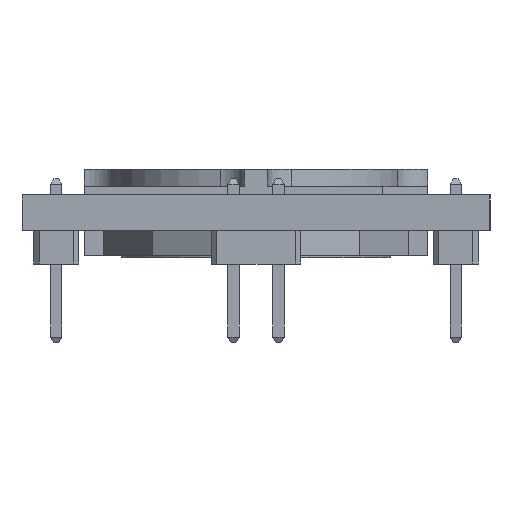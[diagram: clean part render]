
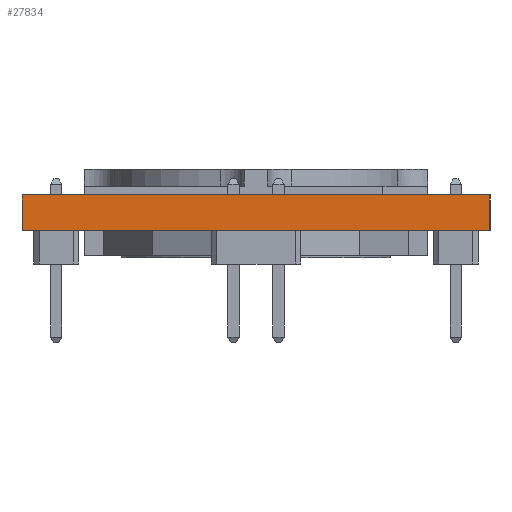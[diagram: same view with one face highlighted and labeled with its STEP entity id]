
A CAD part, left-side view. The second image highlights one B-rep face of the part: STEP entity #27834.
In plain terms, the highlighted planar face has unit normal (-1, 0, 0) as drawn and (0, -1, 0) by its records, which use the part's own axes.
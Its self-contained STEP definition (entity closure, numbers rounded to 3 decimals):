
#822 = VERTEX_POINT ( 'NONE', #15150 ) ;
#2133 = LINE ( 'NONE', #15295, #18014 ) ;
#6997 = VERTEX_POINT ( 'NONE', #30573 ) ;
#8239 = CARTESIAN_POINT ( 'NONE',  ( 46.222, 25.4, 0. ) ) ;
#8980 = VECTOR ( 'NONE', #18170, 1000. ) ;
#10000 = CARTESIAN_POINT ( 'NONE',  ( 0., 25.4, -1.575 ) ) ;
#10211 = CARTESIAN_POINT ( 'NONE',  ( 25.406, 25.4, 0. ) ) ;
#11106 = LINE ( 'NONE', #26862, #22978 ) ;
#13884 = ORIENTED_EDGE ( 'NONE', *, *, #20174, .T. ) ;
#15150 = CARTESIAN_POINT ( 'NONE',  ( 46.222, 25.4, -1.575 ) ) ;
#15295 = CARTESIAN_POINT ( 'NONE',  ( 25.406, 25.4, -1.575 ) ) ;
#15324 = EDGE_CURVE ( 'NONE', #822, #6997, #29702, .T. ) ;
#15368 = CARTESIAN_POINT ( 'NONE',  ( 0., 25.4, -1.575 ) ) ;
#15604 = EDGE_LOOP ( 'NONE', ( #25718, #35604, #35729, #13884 ) ) ;
#16318 = LINE ( 'NONE', #30828, #16771 ) ;
#16771 = VECTOR ( 'NONE', #33665, 1000. ) ;
#18014 = VECTOR ( 'NONE', #35392, 1000. ) ;
#18170 = DIRECTION ( 'NONE',  ( -1., 0., 0. ) ) ;
#18635 = DIRECTION ( 'NONE',  ( 0., 1., 0. ) ) ;
#20174 = EDGE_CURVE ( 'NONE', #822, #35500, #11106, .T. ) ;
#21293 = DIRECTION ( 'NONE',  ( 0., 0., 1. ) ) ;
#21687 = DIRECTION ( 'NONE',  ( 0., 0., 1. ) ) ;
#22978 = VECTOR ( 'NONE', #21293, 1000. ) ;
#23062 = FACE_OUTER_BOUND ( 'NONE', #15604, .T. ) ;
#25718 = ORIENTED_EDGE ( 'NONE', *, *, #33532, .T. ) ;
#26862 = CARTESIAN_POINT ( 'NONE',  ( 46.222, 25.4, -1.575 ) ) ;
#26957 = VERTEX_POINT ( 'NONE', #10211 ) ;
#27834 = ADVANCED_FACE ( 'NONE', ( #23062 ), #35578, .F. ) ;
#28235 = EDGE_CURVE ( 'NONE', #6997, #26957, #2133, .T. ) ;
#29702 = LINE ( 'NONE', #15368, #8980 ) ;
#30573 = CARTESIAN_POINT ( 'NONE',  ( 25.406, 25.4, -1.575 ) ) ;
#30828 = CARTESIAN_POINT ( 'NONE',  ( 0., 25.4, 0. ) ) ;
#33532 = EDGE_CURVE ( 'NONE', #35500, #26957, #16318, .T. ) ;
#33665 = DIRECTION ( 'NONE',  ( -1., 0., 0. ) ) ;
#35392 = DIRECTION ( 'NONE',  ( 0., 0., 1. ) ) ;
#35500 = VERTEX_POINT ( 'NONE', #8239 ) ;
#35578 = PLANE ( 'NONE',  #35798 ) ;
#35604 = ORIENTED_EDGE ( 'NONE', *, *, #28235, .F. ) ;
#35729 = ORIENTED_EDGE ( 'NONE', *, *, #15324, .F. ) ;
#35798 = AXIS2_PLACEMENT_3D ( 'NONE', #10000, #18635, #21687 ) ;
